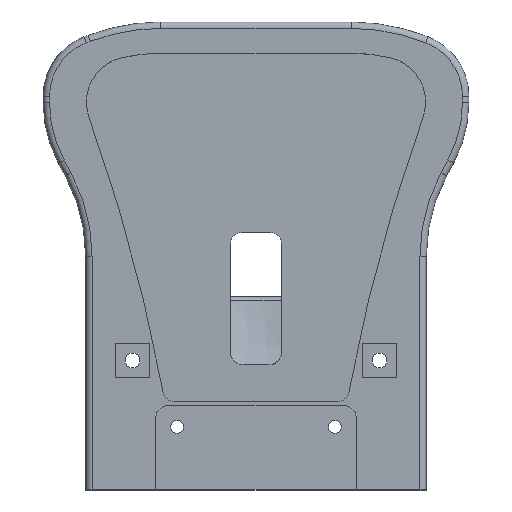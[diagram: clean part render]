
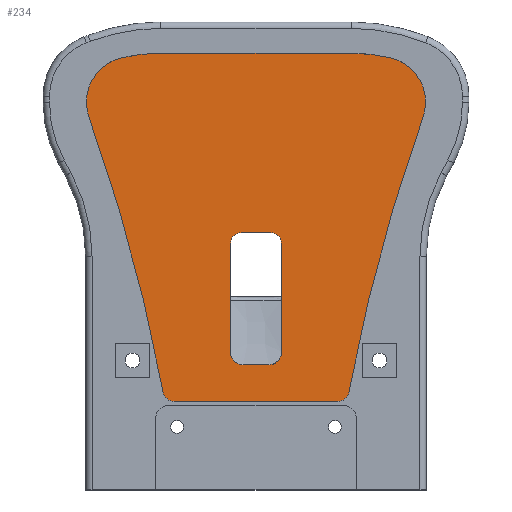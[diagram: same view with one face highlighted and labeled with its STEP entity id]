
A CAD part, top view. The second image highlights one B-rep face of the part: STEP entity #234.
In plain terms, the highlighted planar face has unit normal (0, 0, 1).
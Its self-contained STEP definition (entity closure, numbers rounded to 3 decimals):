
#146=ELLIPSE('',#1648,3.003,3.003);
#147=ELLIPSE('',#1650,3.003,3.003);
#234=ADVANCED_FACE('',(#635,#636),#320,.T.);
#320=PLANE('',#1677);
#364=B_SPLINE_CURVE_WITH_KNOTS('',3,(#2463,#2464,#2465,#2466),.UNSPECIFIED.,
 .F.,.F.,(4,4),(0.,1.),.UNSPECIFIED.);
#365=B_SPLINE_CURVE_WITH_KNOTS('',3,(#2470,#2471,#2472,#2473),.UNSPECIFIED.,
 .F.,.F.,(4,4),(0.,1.),.UNSPECIFIED.);
#376=LINE('',#2254,#502);
#379=LINE('',#2265,#505);
#384=LINE('',#2349,#510);
#385=LINE('',#2364,#511);
#386=LINE('',#2379,#512);
#399=LINE('',#2445,#525);
#400=LINE('',#2449,#526);
#401=LINE('',#2453,#527);
#402=LINE('',#2454,#528);
#403=LINE('',#2468,#529);
#502=VECTOR('',#1810,1.);
#505=VECTOR('',#1813,1.);
#510=VECTOR('',#1828,1.);
#511=VECTOR('',#1831,1.);
#512=VECTOR('',#1834,1.);
#525=VECTOR('',#1877,1.);
#526=VECTOR('',#1880,1.);
#527=VECTOR('',#1883,1.);
#528=VECTOR('',#1884,1.);
#529=VECTOR('',#1891,1.);
#635=FACE_BOUND('',#676,.T.);
#636=FACE_BOUND('',#677,.T.);
#676=EDGE_LOOP('',(#836,#837,#838,#839,#840,#841,#842,#843,#844,#845,#846,
#847));
#677=EDGE_LOOP('',(#848,#849,#850,#851,#852,#853,#854,#855,#856,#857));
#836=ORIENTED_EDGE('',*,*,#1376,.F.);
#837=ORIENTED_EDGE('',*,*,#1357,.T.);
#838=ORIENTED_EDGE('',*,*,#1406,.T.);
#839=ORIENTED_EDGE('',*,*,#1407,.T.);
#840=ORIENTED_EDGE('',*,*,#1408,.T.);
#841=ORIENTED_EDGE('',*,*,#1409,.T.);
#842=ORIENTED_EDGE('',*,*,#1410,.T.);
#843=ORIENTED_EDGE('',*,*,#1361,.T.);
#844=ORIENTED_EDGE('',*,*,#1378,.F.);
#845=ORIENTED_EDGE('',*,*,#1369,.F.);
#846=ORIENTED_EDGE('',*,*,#1374,.F.);
#847=ORIENTED_EDGE('',*,*,#1372,.F.);
#848=ORIENTED_EDGE('',*,*,#1411,.F.);
#849=ORIENTED_EDGE('',*,*,#1412,.F.);
#850=ORIENTED_EDGE('',*,*,#1413,.F.);
#851=ORIENTED_EDGE('',*,*,#1414,.F.);
#852=ORIENTED_EDGE('',*,*,#1415,.F.);
#853=ORIENTED_EDGE('',*,*,#1416,.F.);
#854=ORIENTED_EDGE('',*,*,#1417,.F.);
#855=ORIENTED_EDGE('',*,*,#1418,.F.);
#856=ORIENTED_EDGE('',*,*,#1419,.F.);
#857=ORIENTED_EDGE('',*,*,#1420,.F.);
#1211=VERTEX_POINT('',#2248);
#1214=VERTEX_POINT('',#2253);
#1215=VERTEX_POINT('',#2255);
#1218=VERTEX_POINT('',#2264);
#1225=VERTEX_POINT('',#2338);
#1226=VERTEX_POINT('',#2340);
#1227=VERTEX_POINT('',#2344);
#1228=VERTEX_POINT('',#2346);
#1256=VERTEX_POINT('',#2446);
#1257=VERTEX_POINT('',#2448);
#1258=VERTEX_POINT('',#2450);
#1259=VERTEX_POINT('',#2452);
#1260=VERTEX_POINT('',#2455);
#1261=VERTEX_POINT('',#2456);
#1262=VERTEX_POINT('',#2458);
#1263=VERTEX_POINT('',#2460);
#1264=VERTEX_POINT('',#2462);
#1265=VERTEX_POINT('',#2467);
#1266=VERTEX_POINT('',#2469);
#1267=VERTEX_POINT('',#2474);
#1268=VERTEX_POINT('',#2476);
#1269=VERTEX_POINT('',#2478);
#1357=EDGE_CURVE('',#1215,#1214,#376,.T.);
#1361=EDGE_CURVE('',#1211,#1218,#379,.T.);
#1369=EDGE_CURVE('',#1225,#1226,#146,.T.);
#1372=EDGE_CURVE('',#1227,#1228,#147,.T.);
#1374=EDGE_CURVE('',#1228,#1225,#384,.T.);
#1376=EDGE_CURVE('',#1215,#1227,#385,.T.);
#1378=EDGE_CURVE('',#1226,#1218,#386,.T.);
#1406=EDGE_CURVE('',#1214,#1256,#399,.T.);
#1407=EDGE_CURVE('',#1256,#1257,#1586,.T.);
#1408=EDGE_CURVE('',#1257,#1258,#400,.T.);
#1409=EDGE_CURVE('',#1258,#1259,#1587,.T.);
#1410=EDGE_CURVE('',#1259,#1211,#401,.T.);
#1411=EDGE_CURVE('',#1260,#1261,#402,.T.);
#1412=EDGE_CURVE('',#1262,#1260,#1588,.T.);
#1413=EDGE_CURVE('',#1263,#1262,#1589,.T.);
#1414=EDGE_CURVE('',#1264,#1263,#1590,.T.);
#1415=EDGE_CURVE('',#1265,#1264,#364,.T.);
#1416=EDGE_CURVE('',#1266,#1265,#403,.T.);
#1417=EDGE_CURVE('',#1267,#1266,#365,.T.);
#1418=EDGE_CURVE('',#1268,#1267,#1591,.T.);
#1419=EDGE_CURVE('',#1269,#1268,#1592,.T.);
#1420=EDGE_CURVE('',#1261,#1269,#1593,.T.);
#1586=CIRCLE('',#1669,2.5);
#1587=CIRCLE('',#1670,2.5);
#1588=CIRCLE('',#1671,2.65);
#1589=CIRCLE('',#1672,425.055);
#1590=CIRCLE('',#1673,10.65);
#1591=CIRCLE('',#1674,10.65);
#1592=CIRCLE('',#1675,425.055);
#1593=CIRCLE('',#1676,2.65);
#1648=AXIS2_PLACEMENT_3D('',#2339,#1817,#1818);
#1650=AXIS2_PLACEMENT_3D('',#2345,#1823,#1824);
#1669=AXIS2_PLACEMENT_3D('',#2447,#1878,#1879);
#1670=AXIS2_PLACEMENT_3D('',#2451,#1881,#1882);
#1671=AXIS2_PLACEMENT_3D('',#2457,#1885,#1886);
#1672=AXIS2_PLACEMENT_3D('',#2459,#1887,#1888);
#1673=AXIS2_PLACEMENT_3D('',#2461,#1889,#1890);
#1674=AXIS2_PLACEMENT_3D('',#2475,#1892,#1893);
#1675=AXIS2_PLACEMENT_3D('',#2477,#1894,#1895);
#1676=AXIS2_PLACEMENT_3D('',#2479,#1896,#1897);
#1677=AXIS2_PLACEMENT_3D('',#2480,#1898,#1899);
#1810=DIRECTION('',(1.,0.,0.));
#1813=DIRECTION('',(-1.,0.,0.));
#1817=DIRECTION('',(0.,0.,1.));
#1818=DIRECTION('',(1.,0.,0.));
#1823=DIRECTION('',(0.,0.,1.));
#1824=DIRECTION('',(1.,0.,0.));
#1828=DIRECTION('',(1.,0.,0.));
#1831=DIRECTION('',(0.,-1.,0.));
#1834=DIRECTION('',(0.,1.,0.));
#1877=DIRECTION('',(0.,1.,0.));
#1878=DIRECTION('',(0.,0.,-1.));
#1879=DIRECTION('',(1.,0.,0.));
#1880=DIRECTION('',(1.,0.,0.));
#1881=DIRECTION('',(0.,0.,-1.));
#1882=DIRECTION('',(1.,0.,0.));
#1883=DIRECTION('',(0.,-1.,0.));
#1884=DIRECTION('',(-1.,0.,0.));
#1885=DIRECTION('',(0.,0.,-1.));
#1886=DIRECTION('',(1.,0.,0.));
#1887=DIRECTION('',(0.,0.,1.));
#1888=DIRECTION('',(1.,0.,0.));
#1889=DIRECTION('',(0.,0.,-1.));
#1890=DIRECTION('',(1.,0.,0.));
#1891=DIRECTION('',(1.,0.,0.));
#1892=DIRECTION('',(0.,0.,-1.));
#1893=DIRECTION('',(1.,0.,0.));
#1894=DIRECTION('',(0.,0.,1.));
#1895=DIRECTION('',(1.,0.,0.));
#1896=DIRECTION('',(0.,0.,-1.));
#1897=DIRECTION('',(1.,0.,0.));
#1898=DIRECTION('',(0.,0.,1.));
#1899=DIRECTION('',(1.,0.,0.));
#2248=CARTESIAN_POINT('',(295.5,180.5,95.));
#2253=CARTESIAN_POINT('',(283.5,180.5,95.));
#2254=CARTESIAN_POINT('',(-150.154,180.5,95.));
#2255=CARTESIAN_POINT('',(283.494,180.5,95.));
#2264=CARTESIAN_POINT('',(295.499,180.5,95.));
#2265=CARTESIAN_POINT('',(-150.154,180.5,95.));
#2338=CARTESIAN_POINT('',(292.496,164.497,95.));
#2339=CARTESIAN_POINT('',(292.496,167.5,95.));
#2340=CARTESIAN_POINT('',(295.499,167.5,95.));
#2344=CARTESIAN_POINT('',(283.494,167.5,95.));
#2345=CARTESIAN_POINT('',(286.496,167.5,95.));
#2346=CARTESIAN_POINT('',(286.496,164.497,95.));
#2349=CARTESIAN_POINT('',(-150.154,164.497,95.));
#2364=CARTESIAN_POINT('',(283.494,80.096,95.));
#2379=CARTESIAN_POINT('',(295.499,80.096,95.));
#2445=CARTESIAN_POINT('',(283.5,80.096,95.));
#2446=CARTESIAN_POINT('',(283.5,193.,95.));
#2447=CARTESIAN_POINT('',(286.,193.,95.));
#2448=CARTESIAN_POINT('',(286.,195.5,95.));
#2449=CARTESIAN_POINT('',(-150.154,195.5,95.));
#2450=CARTESIAN_POINT('',(293.,195.5,95.));
#2451=CARTESIAN_POINT('',(293.,193.,95.));
#2452=CARTESIAN_POINT('',(295.5,193.,95.));
#2453=CARTESIAN_POINT('',(295.5,80.096,95.));
#2454=CARTESIAN_POINT('',(304.5,155.85,95.));
#2455=CARTESIAN_POINT('',(308.696,155.85,95.));
#2456=CARTESIAN_POINT('',(270.304,155.85,95.));
#2457=CARTESIAN_POINT('',(308.696,158.5,95.));
#2458=CARTESIAN_POINT('',(311.301,158.014,95.));
#2459=CARTESIAN_POINT('',(729.154,80.096,95.));
#2460=CARTESIAN_POINT('',(328.708,222.628,95.));
#2461=CARTESIAN_POINT('',(318.675,226.199,95.));
#2462=CARTESIAN_POINT('',(321.089,236.571,95.));
#2463=CARTESIAN_POINT('',(311.907,237.65,95.));
#2464=CARTESIAN_POINT('',(315.01,237.65,95.));
#2465=CARTESIAN_POINT('',(318.069,237.275,95.));
#2466=CARTESIAN_POINT('',(321.089,236.571,95.));
#2467=CARTESIAN_POINT('',(311.907,237.65,95.));
#2468=CARTESIAN_POINT('',(289.5,237.65,95.));
#2469=CARTESIAN_POINT('',(267.093,237.65,95.));
#2470=CARTESIAN_POINT('',(257.911,236.571,95.));
#2471=CARTESIAN_POINT('',(260.931,237.275,95.));
#2472=CARTESIAN_POINT('',(263.99,237.65,95.));
#2473=CARTESIAN_POINT('',(267.093,237.65,95.));
#2474=CARTESIAN_POINT('',(257.911,236.571,95.));
#2475=CARTESIAN_POINT('',(260.325,226.199,95.));
#2476=CARTESIAN_POINT('',(250.292,222.628,95.));
#2477=CARTESIAN_POINT('',(-150.154,80.096,95.));
#2478=CARTESIAN_POINT('',(267.699,158.014,95.));
#2479=CARTESIAN_POINT('',(270.304,158.5,95.));
#2480=CARTESIAN_POINT('',(-150.154,80.096,95.));
